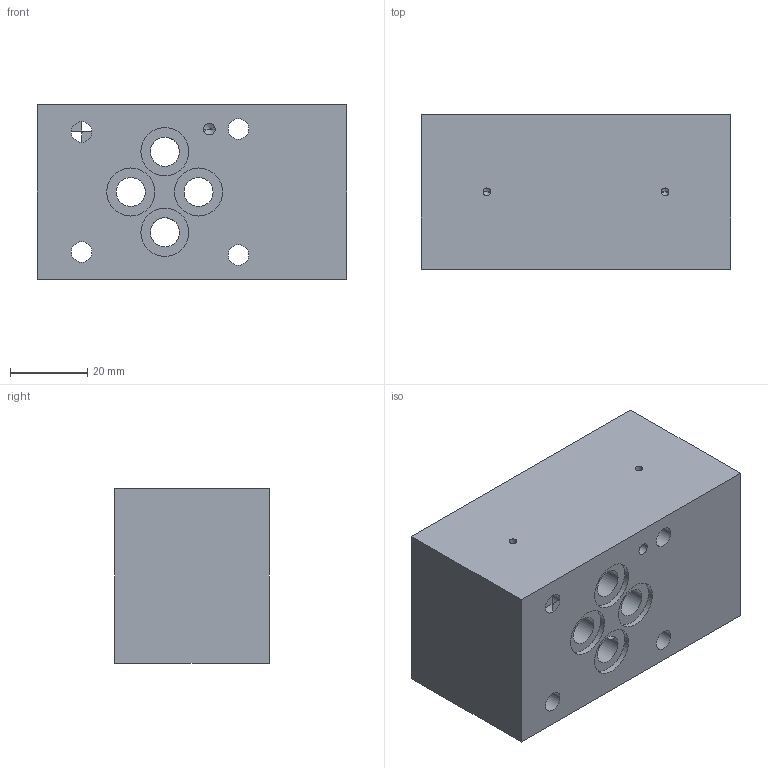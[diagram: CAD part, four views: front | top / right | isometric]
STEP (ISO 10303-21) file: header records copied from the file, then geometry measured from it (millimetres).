
FILE_DESCRIPTION((''),'2;1');
FILE_NAME('1000099598','2023-10-12T',('l.soukupova'),(''),'PRO/ENGINEER BY PARAMETRIC TECHNOLOGY CORPORATION, 2015440','PRO/ENGINEER BY PARAMETRIC TECHNOLOGY CORPORATION, 2015440','');
FILE_SCHEMA(('AUTOMOTIVE_DESIGN { 1 0 10303 214 1 1 1 1 }'));
Length unit declared in the file: millimetre
Products named in the file (1): 1000099598
Bounding box: 80 x 40 x 45 mm (x, y, z)
Volume: 119898.8 mm3; surface area: 27855.4 mm2
Topology: 1 solids, 4 shells, 94 faces, 368 edges, 331 vertices
Faces by surface type: cylinder 54, cone 25, plane 15
Entity records: 6265 total; most frequent: CARTESIAN_POINT 1578, DIRECTION 688, ORIENTED_EDGE 490, PRESENTATION_STYLE_ASSIGNMENT 429, STYLED_ITEM 400, CURVE_STYLE 397, AXIS2_PLACEMENT_3D 256, EDGE_CURVE 251
